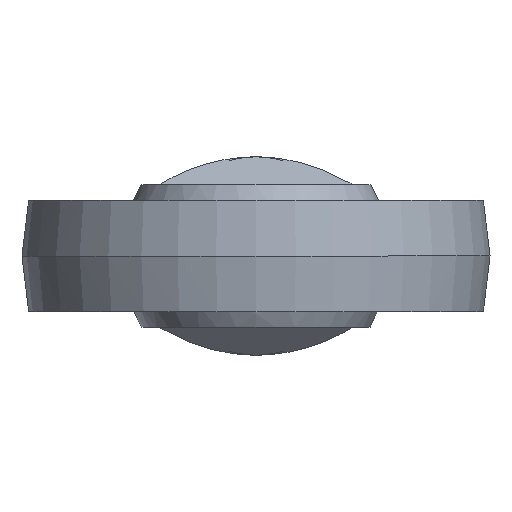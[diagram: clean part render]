
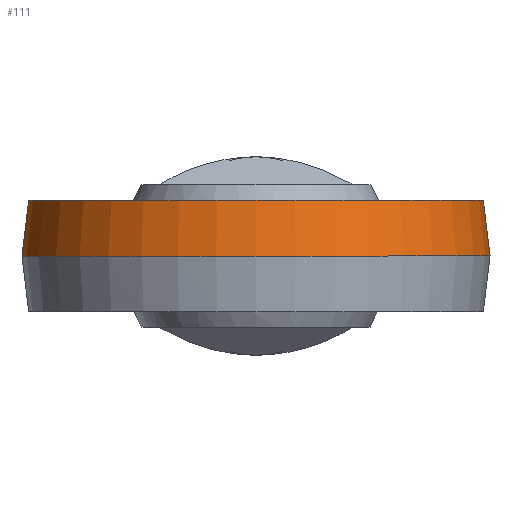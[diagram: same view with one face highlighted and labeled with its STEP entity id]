
A CAD part, left-side view. The second image highlights one B-rep face of the part: STEP entity #111.
In plain terms, the highlighted spherical face has radius 46 mm.
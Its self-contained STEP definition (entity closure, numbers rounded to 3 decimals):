
#71 = EDGE_CURVE ( 'NONE', #116, #99, #385, .T. ) ;
#98 = EDGE_CURVE ( 'NONE', #99, #103, #426, .T. ) ;
#99 = VERTEX_POINT ( 'NONE', #422 ) ;
#100 = ORIENTED_EDGE ( 'NONE', *, *, #71, .F. ) ;
#101 = EDGE_CURVE ( 'NONE', #105, #103, #478, .T. ) ;
#102 = ORIENTED_EDGE ( 'NONE', *, *, #98, .F. ) ;
#103 = VERTEX_POINT ( 'NONE', #473 ) ;
#104 = ORIENTED_EDGE ( 'NONE', *, *, #101, .T. ) ;
#105 = VERTEX_POINT ( 'NONE', #472 ) ;
#106 = VERTEX_POINT ( 'NONE', #471 ) ;
#107 = ORIENTED_EDGE ( 'NONE', *, *, #108, .F. ) ;
#108 = EDGE_CURVE ( 'NONE', #105, #106, #469, .T. ) ;
#109 = EDGE_LOOP ( 'NONE', ( #107, #104, #102, #100, #115 ) ) ;
#111 = ADVANCED_FACE ( 'NONE', ( #461 ), #460, .T. ) ;
#114 = EDGE_CURVE ( 'NONE', #106, #116, #450, .T. ) ;
#115 = ORIENTED_EDGE ( 'NONE', *, *, #114, .F. ) ;
#116 = VERTEX_POINT ( 'NONE', #451 ) ;
#381 = DIRECTION ( 'NONE',  ( -1., 0., 0. ) ) ;
#382 = DIRECTION ( 'NONE',  ( 0., 0., 1. ) ) ;
#383 = CARTESIAN_POINT ( 'NONE',  ( 0., 0., 11. ) ) ;
#384 = AXIS2_PLACEMENT_3D ( 'NONE', #383, #382, #381 ) ;
#385 = CIRCLE ( 'NONE', #384, 44.665 ) ;
#418 = DIRECTION ( 'NONE',  ( 0., 1., 0. ) ) ;
#419 = DIRECTION ( 'NONE',  ( 1., 0., 0. ) ) ;
#420 = CARTESIAN_POINT ( 'NONE',  ( 27.734, 0., 0. ) ) ;
#421 = AXIS2_PLACEMENT_3D ( 'NONE', #420, #419, #418 ) ;
#422 = CARTESIAN_POINT ( 'NONE',  ( 27.734, -35.012, 11. ) ) ;
#426 = CIRCLE ( 'NONE', #421, 36.699 ) ;
#446 = DIRECTION ( 'NONE',  ( 0., 1., 0. ) ) ;
#447 = DIRECTION ( 'NONE',  ( 1., 0., 0. ) ) ;
#448 = CARTESIAN_POINT ( 'NONE',  ( 27.734, 0., 0. ) ) ;
#449 = AXIS2_PLACEMENT_3D ( 'NONE', #448, #447, #446 ) ;
#450 = CIRCLE ( 'NONE', #449, 36.699 ) ;
#451 = CARTESIAN_POINT ( 'NONE',  ( 27.734, 35.012, 11. ) ) ;
#456 = DIRECTION ( 'NONE',  ( 0., 1., 0. ) ) ;
#457 = DIRECTION ( 'NONE',  ( 0., 0., 1. ) ) ;
#458 = CARTESIAN_POINT ( 'NONE',  ( 0., 0., 0. ) ) ;
#459 = AXIS2_PLACEMENT_3D ( 'NONE', #458, #457, #456 ) ;
#460 = SPHERICAL_SURFACE ( 'NONE', #459, 46. ) ;
#461 = FACE_OUTER_BOUND ( 'NONE', #109, .T. ) ;
#465 = DIRECTION ( 'NONE',  ( -1., 0., 0. ) ) ;
#466 = DIRECTION ( 'NONE',  ( 0., 0., -1. ) ) ;
#467 = CARTESIAN_POINT ( 'NONE',  ( 0., 0., 0. ) ) ;
#468 = AXIS2_PLACEMENT_3D ( 'NONE', #467, #466, #465 ) ;
#469 = CIRCLE ( 'NONE', #468, 46. ) ;
#471 = CARTESIAN_POINT ( 'NONE',  ( 27.734, 36.699, 0. ) ) ;
#472 = CARTESIAN_POINT ( 'NONE',  ( -46., 0., 0. ) ) ;
#473 = CARTESIAN_POINT ( 'NONE',  ( 27.734, -36.699, 0. ) ) ;
#474 = DIRECTION ( 'NONE',  ( 0., -1., 0. ) ) ;
#475 = DIRECTION ( 'NONE',  ( 0., 0., 1. ) ) ;
#476 = CARTESIAN_POINT ( 'NONE',  ( 0., 0., 0. ) ) ;
#477 = AXIS2_PLACEMENT_3D ( 'NONE', #476, #475, #474 ) ;
#478 = CIRCLE ( 'NONE', #477, 46. ) ;
